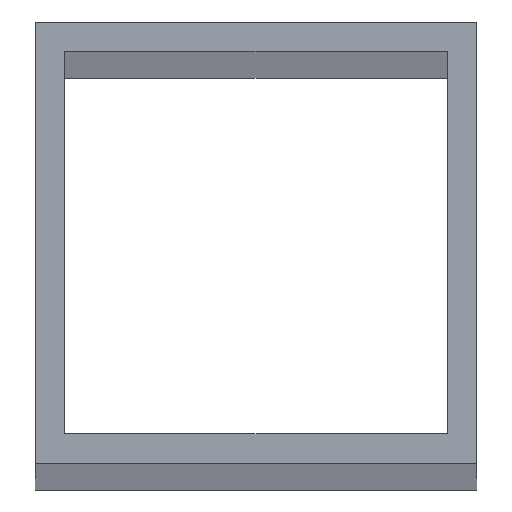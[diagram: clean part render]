
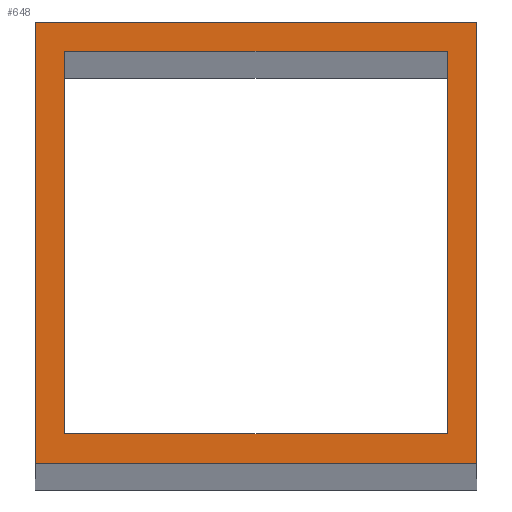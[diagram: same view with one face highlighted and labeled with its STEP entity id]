
A CAD part, top view. The second image highlights one B-rep face of the part: STEP entity #648.
In plain terms, the highlighted planar face has unit normal (0, 0, 1).
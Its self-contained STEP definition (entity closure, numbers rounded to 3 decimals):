
#24 = VERTEX_POINT('',#25);
#25 = CARTESIAN_POINT('',(-30.,-30.,2100.));
#32 = PLANE('',#33);
#33 = AXIS2_PLACEMENT_3D('',#34,#35,#36);
#34 = CARTESIAN_POINT('',(-30.,-30.,0.));
#35 = DIRECTION('',(0.,1.,0.));
#36 = DIRECTION('',(1.,0.,0.));
#44 = PLANE('',#45);
#45 = AXIS2_PLACEMENT_3D('',#46,#47,#48);
#46 = CARTESIAN_POINT('',(-30.,30.,0.));
#47 = DIRECTION('',(1.,0.,-0.));
#48 = DIRECTION('',(0.,-1.,0.));
#56 = EDGE_CURVE('',#24,#57,#59,.T.);
#57 = VERTEX_POINT('',#58);
#58 = CARTESIAN_POINT('',(30.,-30.,2100.));
#59 = SURFACE_CURVE('',#60,(#64,#71),.PCURVE_S1.);
#60 = LINE('',#61,#62);
#61 = CARTESIAN_POINT('',(-30.,-30.,2100.));
#62 = VECTOR('',#63,1.);
#63 = DIRECTION('',(1.,0.,0.));
#64 = PCURVE('',#32,#65);
#65 = DEFINITIONAL_REPRESENTATION('',(#66),#70);
#66 = LINE('',#67,#68);
#67 = CARTESIAN_POINT('',(0.,-2100.));
#68 = VECTOR('',#69,1.);
#69 = DIRECTION('',(1.,0.));
#70 = ( GEOMETRIC_REPRESENTATION_CONTEXT(2) 
PARAMETRIC_REPRESENTATION_CONTEXT() REPRESENTATION_CONTEXT('2D SPACE',''
  ) );
#71 = PCURVE('',#72,#77);
#72 = PLANE('',#73);
#73 = AXIS2_PLACEMENT_3D('',#74,#75,#76);
#74 = CARTESIAN_POINT('',(0.,0.,2100.));
#75 = DIRECTION('',(0.,0.,1.));
#76 = DIRECTION('',(1.,0.,-0.));
#77 = DEFINITIONAL_REPRESENTATION('',(#78),#82);
#78 = LINE('',#79,#80);
#79 = CARTESIAN_POINT('',(-30.,-30.));
#80 = VECTOR('',#81,1.);
#81 = DIRECTION('',(1.,0.));
#82 = ( GEOMETRIC_REPRESENTATION_CONTEXT(2) 
PARAMETRIC_REPRESENTATION_CONTEXT() REPRESENTATION_CONTEXT('2D SPACE',''
  ) );
#100 = PLANE('',#101);
#101 = AXIS2_PLACEMENT_3D('',#102,#103,#104);
#102 = CARTESIAN_POINT('',(30.,-30.,0.));
#103 = DIRECTION('',(-1.,0.,0.));
#104 = DIRECTION('',(0.,1.,0.));
#142 = EDGE_CURVE('',#57,#143,#145,.T.);
#143 = VERTEX_POINT('',#144);
#144 = CARTESIAN_POINT('',(30.,30.,2100.));
#145 = SURFACE_CURVE('',#146,(#150,#157),.PCURVE_S1.);
#146 = LINE('',#147,#148);
#147 = CARTESIAN_POINT('',(30.,-30.,2100.));
#148 = VECTOR('',#149,1.);
#149 = DIRECTION('',(0.,1.,0.));
#150 = PCURVE('',#100,#151);
#151 = DEFINITIONAL_REPRESENTATION('',(#152),#156);
#152 = LINE('',#153,#154);
#153 = CARTESIAN_POINT('',(0.,-2100.));
#154 = VECTOR('',#155,1.);
#155 = DIRECTION('',(1.,0.));
#156 = ( GEOMETRIC_REPRESENTATION_CONTEXT(2) 
PARAMETRIC_REPRESENTATION_CONTEXT() REPRESENTATION_CONTEXT('2D SPACE',''
  ) );
#157 = PCURVE('',#72,#158);
#158 = DEFINITIONAL_REPRESENTATION('',(#159),#163);
#159 = LINE('',#160,#161);
#160 = CARTESIAN_POINT('',(30.,-30.));
#161 = VECTOR('',#162,1.);
#162 = DIRECTION('',(0.,1.));
#163 = ( GEOMETRIC_REPRESENTATION_CONTEXT(2) 
PARAMETRIC_REPRESENTATION_CONTEXT() REPRESENTATION_CONTEXT('2D SPACE',''
  ) );
#181 = PLANE('',#182);
#182 = AXIS2_PLACEMENT_3D('',#183,#184,#185);
#183 = CARTESIAN_POINT('',(30.,30.,0.));
#184 = DIRECTION('',(0.,-1.,0.));
#185 = DIRECTION('',(-1.,0.,0.));
#218 = EDGE_CURVE('',#143,#219,#221,.T.);
#219 = VERTEX_POINT('',#220);
#220 = CARTESIAN_POINT('',(-30.,30.,2100.));
#221 = SURFACE_CURVE('',#222,(#226,#233),.PCURVE_S1.);
#222 = LINE('',#223,#224);
#223 = CARTESIAN_POINT('',(30.,30.,2100.));
#224 = VECTOR('',#225,1.);
#225 = DIRECTION('',(-1.,0.,0.));
#226 = PCURVE('',#181,#227);
#227 = DEFINITIONAL_REPRESENTATION('',(#228),#232);
#228 = LINE('',#229,#230);
#229 = CARTESIAN_POINT('',(0.,-2100.));
#230 = VECTOR('',#231,1.);
#231 = DIRECTION('',(1.,0.));
#232 = ( GEOMETRIC_REPRESENTATION_CONTEXT(2) 
PARAMETRIC_REPRESENTATION_CONTEXT() REPRESENTATION_CONTEXT('2D SPACE',''
  ) );
#233 = PCURVE('',#72,#234);
#234 = DEFINITIONAL_REPRESENTATION('',(#235),#239);
#235 = LINE('',#236,#237);
#236 = CARTESIAN_POINT('',(30.,30.));
#237 = VECTOR('',#238,1.);
#238 = DIRECTION('',(-1.,0.));
#239 = ( GEOMETRIC_REPRESENTATION_CONTEXT(2) 
PARAMETRIC_REPRESENTATION_CONTEXT() REPRESENTATION_CONTEXT('2D SPACE',''
  ) );
#289 = EDGE_CURVE('',#219,#24,#290,.T.);
#290 = SURFACE_CURVE('',#291,(#295,#302),.PCURVE_S1.);
#291 = LINE('',#292,#293);
#292 = CARTESIAN_POINT('',(-30.,30.,2100.));
#293 = VECTOR('',#294,1.);
#294 = DIRECTION('',(0.,-1.,0.));
#295 = PCURVE('',#44,#296);
#296 = DEFINITIONAL_REPRESENTATION('',(#297),#301);
#297 = LINE('',#298,#299);
#298 = CARTESIAN_POINT('',(0.,-2100.));
#299 = VECTOR('',#300,1.);
#300 = DIRECTION('',(1.,0.));
#301 = ( GEOMETRIC_REPRESENTATION_CONTEXT(2) 
PARAMETRIC_REPRESENTATION_CONTEXT() REPRESENTATION_CONTEXT('2D SPACE',''
  ) );
#302 = PCURVE('',#72,#303);
#303 = DEFINITIONAL_REPRESENTATION('',(#304),#308);
#304 = LINE('',#305,#306);
#305 = CARTESIAN_POINT('',(-30.,30.));
#306 = VECTOR('',#307,1.);
#307 = DIRECTION('',(0.,-1.));
#308 = ( GEOMETRIC_REPRESENTATION_CONTEXT(2) 
PARAMETRIC_REPRESENTATION_CONTEXT() REPRESENTATION_CONTEXT('2D SPACE',''
  ) );
#338 = VERTEX_POINT('',#339);
#339 = CARTESIAN_POINT('',(-26.,-26.,2100.));
#346 = PLANE('',#347);
#347 = AXIS2_PLACEMENT_3D('',#348,#349,#350);
#348 = CARTESIAN_POINT('',(-26.,-26.,0.));
#349 = DIRECTION('',(0.,1.,0.));
#350 = DIRECTION('',(1.,0.,0.));
#358 = PLANE('',#359);
#359 = AXIS2_PLACEMENT_3D('',#360,#361,#362);
#360 = CARTESIAN_POINT('',(-26.,26.,0.));
#361 = DIRECTION('',(1.,0.,-0.));
#362 = DIRECTION('',(0.,-1.,0.));
#370 = EDGE_CURVE('',#338,#371,#373,.T.);
#371 = VERTEX_POINT('',#372);
#372 = CARTESIAN_POINT('',(26.,-26.,2100.));
#373 = SURFACE_CURVE('',#374,(#378,#385),.PCURVE_S1.);
#374 = LINE('',#375,#376);
#375 = CARTESIAN_POINT('',(-26.,-26.,2100.));
#376 = VECTOR('',#377,1.);
#377 = DIRECTION('',(1.,0.,0.));
#378 = PCURVE('',#346,#379);
#379 = DEFINITIONAL_REPRESENTATION('',(#380),#384);
#380 = LINE('',#381,#382);
#381 = CARTESIAN_POINT('',(0.,-2100.));
#382 = VECTOR('',#383,1.);
#383 = DIRECTION('',(1.,0.));
#384 = ( GEOMETRIC_REPRESENTATION_CONTEXT(2) 
PARAMETRIC_REPRESENTATION_CONTEXT() REPRESENTATION_CONTEXT('2D SPACE',''
  ) );
#385 = PCURVE('',#72,#386);
#386 = DEFINITIONAL_REPRESENTATION('',(#387),#391);
#387 = LINE('',#388,#389);
#388 = CARTESIAN_POINT('',(-26.,-26.));
#389 = VECTOR('',#390,1.);
#390 = DIRECTION('',(1.,0.));
#391 = ( GEOMETRIC_REPRESENTATION_CONTEXT(2) 
PARAMETRIC_REPRESENTATION_CONTEXT() REPRESENTATION_CONTEXT('2D SPACE',''
  ) );
#409 = PLANE('',#410);
#410 = AXIS2_PLACEMENT_3D('',#411,#412,#413);
#411 = CARTESIAN_POINT('',(26.,-26.,0.));
#412 = DIRECTION('',(-1.,0.,0.));
#413 = DIRECTION('',(0.,1.,0.));
#446 = EDGE_CURVE('',#371,#447,#449,.T.);
#447 = VERTEX_POINT('',#448);
#448 = CARTESIAN_POINT('',(26.,26.,2100.));
#449 = SURFACE_CURVE('',#450,(#454,#461),.PCURVE_S1.);
#450 = LINE('',#451,#452);
#451 = CARTESIAN_POINT('',(26.,-26.,2100.));
#452 = VECTOR('',#453,1.);
#453 = DIRECTION('',(0.,1.,0.));
#454 = PCURVE('',#409,#455);
#455 = DEFINITIONAL_REPRESENTATION('',(#456),#460);
#456 = LINE('',#457,#458);
#457 = CARTESIAN_POINT('',(0.,-2100.));
#458 = VECTOR('',#459,1.);
#459 = DIRECTION('',(1.,0.));
#460 = ( GEOMETRIC_REPRESENTATION_CONTEXT(2) 
PARAMETRIC_REPRESENTATION_CONTEXT() REPRESENTATION_CONTEXT('2D SPACE',''
  ) );
#461 = PCURVE('',#72,#462);
#462 = DEFINITIONAL_REPRESENTATION('',(#463),#467);
#463 = LINE('',#464,#465);
#464 = CARTESIAN_POINT('',(26.,-26.));
#465 = VECTOR('',#466,1.);
#466 = DIRECTION('',(0.,1.));
#467 = ( GEOMETRIC_REPRESENTATION_CONTEXT(2) 
PARAMETRIC_REPRESENTATION_CONTEXT() REPRESENTATION_CONTEXT('2D SPACE',''
  ) );
#485 = PLANE('',#486);
#486 = AXIS2_PLACEMENT_3D('',#487,#488,#489);
#487 = CARTESIAN_POINT('',(26.,26.,0.));
#488 = DIRECTION('',(0.,-1.,0.));
#489 = DIRECTION('',(-1.,0.,0.));
#522 = EDGE_CURVE('',#447,#523,#525,.T.);
#523 = VERTEX_POINT('',#524);
#524 = CARTESIAN_POINT('',(-26.,26.,2100.));
#525 = SURFACE_CURVE('',#526,(#530,#537),.PCURVE_S1.);
#526 = LINE('',#527,#528);
#527 = CARTESIAN_POINT('',(26.,26.,2100.));
#528 = VECTOR('',#529,1.);
#529 = DIRECTION('',(-1.,0.,0.));
#530 = PCURVE('',#485,#531);
#531 = DEFINITIONAL_REPRESENTATION('',(#532),#536);
#532 = LINE('',#533,#534);
#533 = CARTESIAN_POINT('',(0.,-2100.));
#534 = VECTOR('',#535,1.);
#535 = DIRECTION('',(1.,0.));
#536 = ( GEOMETRIC_REPRESENTATION_CONTEXT(2) 
PARAMETRIC_REPRESENTATION_CONTEXT() REPRESENTATION_CONTEXT('2D SPACE',''
  ) );
#537 = PCURVE('',#72,#538);
#538 = DEFINITIONAL_REPRESENTATION('',(#539),#543);
#539 = LINE('',#540,#541);
#540 = CARTESIAN_POINT('',(26.,26.));
#541 = VECTOR('',#542,1.);
#542 = DIRECTION('',(-1.,0.));
#543 = ( GEOMETRIC_REPRESENTATION_CONTEXT(2) 
PARAMETRIC_REPRESENTATION_CONTEXT() REPRESENTATION_CONTEXT('2D SPACE',''
  ) );
#593 = EDGE_CURVE('',#523,#338,#594,.T.);
#594 = SURFACE_CURVE('',#595,(#599,#606),.PCURVE_S1.);
#595 = LINE('',#596,#597);
#596 = CARTESIAN_POINT('',(-26.,26.,2100.));
#597 = VECTOR('',#598,1.);
#598 = DIRECTION('',(0.,-1.,0.));
#599 = PCURVE('',#358,#600);
#600 = DEFINITIONAL_REPRESENTATION('',(#601),#605);
#601 = LINE('',#602,#603);
#602 = CARTESIAN_POINT('',(0.,-2100.));
#603 = VECTOR('',#604,1.);
#604 = DIRECTION('',(1.,0.));
#605 = ( GEOMETRIC_REPRESENTATION_CONTEXT(2) 
PARAMETRIC_REPRESENTATION_CONTEXT() REPRESENTATION_CONTEXT('2D SPACE',''
  ) );
#606 = PCURVE('',#72,#607);
#607 = DEFINITIONAL_REPRESENTATION('',(#608),#612);
#608 = LINE('',#609,#610);
#609 = CARTESIAN_POINT('',(-26.,26.));
#610 = VECTOR('',#611,1.);
#611 = DIRECTION('',(0.,-1.));
#612 = ( GEOMETRIC_REPRESENTATION_CONTEXT(2) 
PARAMETRIC_REPRESENTATION_CONTEXT() REPRESENTATION_CONTEXT('2D SPACE',''
  ) );
#648 = ADVANCED_FACE('',(#649,#655),#72,.T.);
#649 = FACE_BOUND('',#650,.T.);
#650 = EDGE_LOOP('',(#651,#652,#653,#654));
#651 = ORIENTED_EDGE('',*,*,#56,.T.);
#652 = ORIENTED_EDGE('',*,*,#142,.T.);
#653 = ORIENTED_EDGE('',*,*,#218,.T.);
#654 = ORIENTED_EDGE('',*,*,#289,.T.);
#655 = FACE_BOUND('',#656,.F.);
#656 = EDGE_LOOP('',(#657,#658,#659,#660));
#657 = ORIENTED_EDGE('',*,*,#370,.T.);
#658 = ORIENTED_EDGE('',*,*,#446,.T.);
#659 = ORIENTED_EDGE('',*,*,#522,.T.);
#660 = ORIENTED_EDGE('',*,*,#593,.T.);
